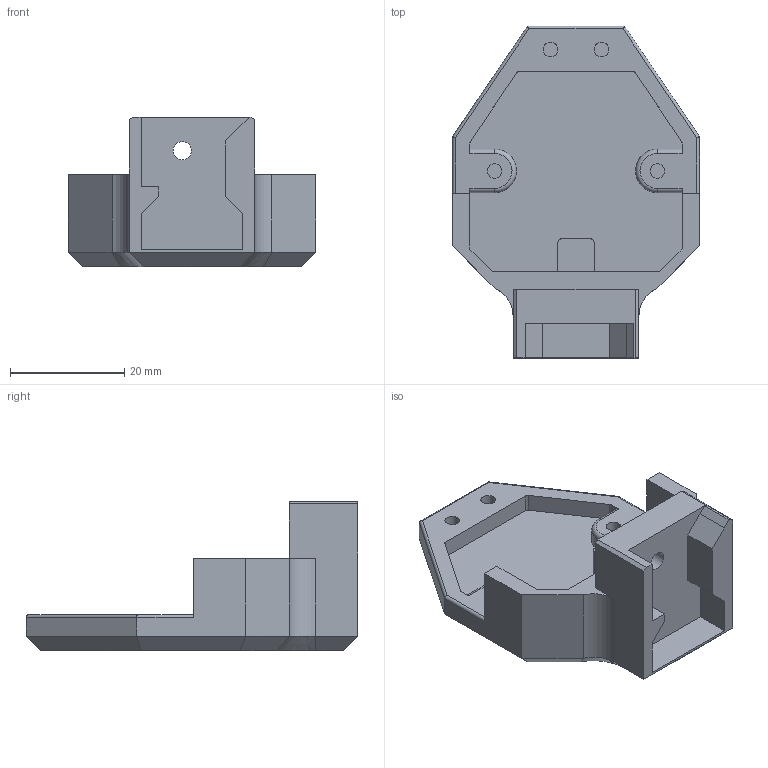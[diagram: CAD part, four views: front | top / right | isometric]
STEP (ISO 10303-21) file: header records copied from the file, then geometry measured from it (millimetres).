
FILE_DESCRIPTION(/* description */ ('STEP AP242','CAx-IF Rec.Pracs.---Representation and Presentation of Product Manufacturing Information (PMI)---4.0---2014-10-13','CAx-IF Rec.Pracs.---3D Tessellated Geometry---0.4---2014-09-14','2;1'),/* implementation_level */ '2;1');
FILE_NAME(/* name */ '6367a9990f60637f9a1aee12',/* time_stamp */ '2022-11-06T12:33:29+00:00',/* author */ (''),/* organization */ (''),/* preprocessor_version */ 'ST-DEVELOPER v18.102',/* originating_system */ ' ',/* authorisation */ ' ');
FILE_SCHEMA (('AP242_MANAGED_MODEL_BASED_3D_ENGINEERING_MIM_LF { 1 0 10303 442 1 1 4 }'));
Length unit declared in the file: metre
Products named in the file (1): Palm
Bounding box: 43.18 x 58.01 x 26.16 mm (x, y, z)
Volume: 13445.6 mm3; surface area: 8037 mm2
Topology: 1 solids, 1 shells, 101 faces, 266 edges, 172 vertices
Faces by surface type: plane 71, cylinder 26, torus 2, cone 2
Full cylindrical faces by diameter (mm): 2.54 x4, 3.2 x1
Entity records: 3084 total; most frequent: CARTESIAN_POINT 557, ORIENTED_EDGE 520, DIRECTION 508, EDGE_CURVE 260, LINE 200, VECTOR 200, VERTEX_POINT 171, AXIS2_PLACEMENT_3D 154
